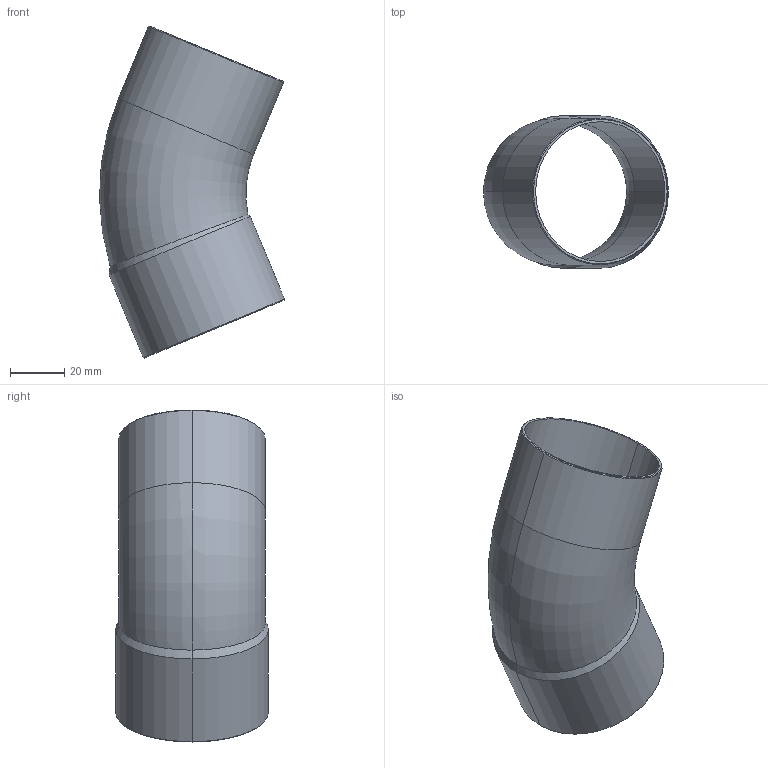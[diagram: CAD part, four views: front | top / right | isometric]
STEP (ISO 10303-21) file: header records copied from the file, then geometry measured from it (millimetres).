
FILE_DESCRIPTION((''),'2;1');
FILE_NAME('P:\Bouwmaten\z-maattekeningen 3D\5000\5040\1504054.stp','2005-10-05T11:46:58',('Kris'),(''),'Autodesk Inventor 8','Autodesk Inventor 8','');
FILE_SCHEMA(('AUTOMOTIVE_DESIGN { 1 0 10303 214 1 1 1 1 }'));
Length unit declared in the file: millimetre
Products named in the file (1): 1504054
Bounding box: 68.25 x 56.4 x 122.52 mm (x, y, z)
Volume: 21685.7 mm3; surface area: 36497.8 mm2
Topology: 1 solids, 1 shells, 24 faces, 50 edges, 28 vertices
Faces by surface type: cone 10, cylinder 8, torus 4, plane 2
Entity records: 729 total; most frequent: CARTESIAN_POINT 179, DIRECTION 124, ORIENTED_EDGE 100, AXIS2_PLACEMENT_3D 53, EDGE_CURVE 50, VERTEX_POINT 28, CIRCLE 28, EDGE_LOOP 26
